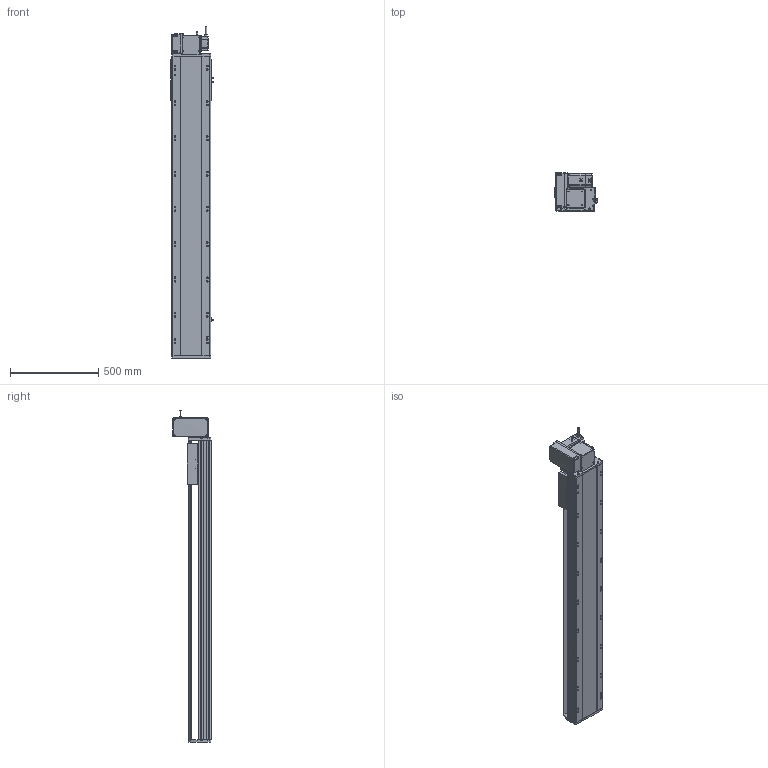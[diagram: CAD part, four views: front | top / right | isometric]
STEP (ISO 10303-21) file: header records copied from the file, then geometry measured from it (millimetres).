
FILE_DESCRIPTION (( 'STEP AP214' ), '1' );
FILE_NAME ('RTB22S-XX-1350-LW-M75-C4.STEP', '2025-12-12T05:57:04', ( '' ), ( '' ), 'SwSTEP 2.0', 'SolidWorks 2018', '' );
FILE_SCHEMA (( 'AUTOMOTIVE_DESIGN' ));
Length unit declared in the file: millimetre
Products named in the file (14): RTB22S-L-004賑釱^RTB22S-XX-XX-LW-M75-C4; RTH22-GY-013外置感应片^RTB22S-XX-XX-LW-M75-C4; RTB22S-XX-1350-LW-M75-C4; RTB22S-LW-々湍釱蚾饜^RTB22S-XX-XX-LW-M75-C4; RTB22S-GY-008-M75--萇儂啣^RTB22S-LW-々湍釱蚾饜_RTB22S-XX-XX-LW-M75-C4; RTB22S-GY-014--々湍釱^RTB22S-LW-々湍釱蚾饜_RTB22S-XX-XX-LW-M75-C4; RTB22S-GY-018P^RTB22S-LW-々湍釱蚾饜_RTB22S-XX-XX-LW-M75-C4; RTB22S-GY-007奻裔^RTB22S-XX-XX-LW-M75-C4; RTB22S-GY-017P^RTB22S-LW-々湍釱蚾饜_RTB22S-XX-XX-LW-M75-C4; RTB22S-L-011菁釱^RTB22S-XX-XX-LW-M75-C4; 750W萇儂^RTB22S-XX-XX-LW-M75-C4; RTB22S-GY-001耜裔^RTB22S-XX-XX-LW-M75-C4; RTB22S-GY-005P^RTB22S-LW-々湍釱蚾饜_RTB22S-XX-XX-LW-M75-C4; OMRON EE-SX672 传感器^RTB22S-XX-XX-LW-M75-C4
Assembly tree (16 placements, depth 3):
  RTB22S-XX-1350-LW-M75-C4
    RTB22S-L-011菁釱^RTB22S-XX-XX-LW-M75-C4
    RTB22S-GY-001耜裔^RTB22S-XX-XX-LW-M75-C4
    750W萇儂^RTB22S-XX-XX-LW-M75-C4
    RTB22S-GY-007奻裔^RTB22S-XX-XX-LW-M75-C4
    RTB22S-L-004賑釱^RTB22S-XX-XX-LW-M75-C4
    RTH22-GY-013外置感应片^RTB22S-XX-XX-LW-M75-C4
    OMRON EE-SX672 传感器^RTB22S-XX-XX-LW-M75-C4  x3
    RTB22S-LW-々湍釱蚾饜^RTB22S-XX-XX-LW-M75-C4
      RTB22S-GY-014--々湍釱^RTB22S-LW-々湍釱蚾饜_RTB22S-XX-XX-LW-M75-C4
      RTB22S-GY-017P^RTB22S-LW-々湍釱蚾饜_RTB22S-XX-XX-LW-M75-C4  x2
      RTB22S-GY-005P^RTB22S-LW-々湍釱蚾饜_RTB22S-XX-XX-LW-M75-C4
      RTB22S-GY-008-M75--萇儂啣^RTB22S-LW-々湍釱蚾饜_RTB22S-XX-XX-LW-M75-C4
      RTB22S-GY-018P^RTB22S-LW-々湍釱蚾饜_RTB22S-XX-XX-LW-M75-C4
Bounding box: 238.5 x 215.5 x 1882.2 mm (x, y, z)
Volume: 25367960.1 mm3; surface area: 2623676 mm2
Topology: 15 solids, 15 shells, 2001 faces, 5436 edges, 3482 vertices
Faces by surface type: plane 917, cylinder 634, bspline 296, cone 142, sphere 8, torus 4
Entity records: 53426 total; most frequent: CARTESIAN_POINT 15320, ORIENTED_EDGE 7652, DIRECTION 7380, EDGE_CURVE 3826, AXIS2_PLACEMENT_3D 2610, VERTEX_POINT 2486, LINE 2160, VECTOR 2160
